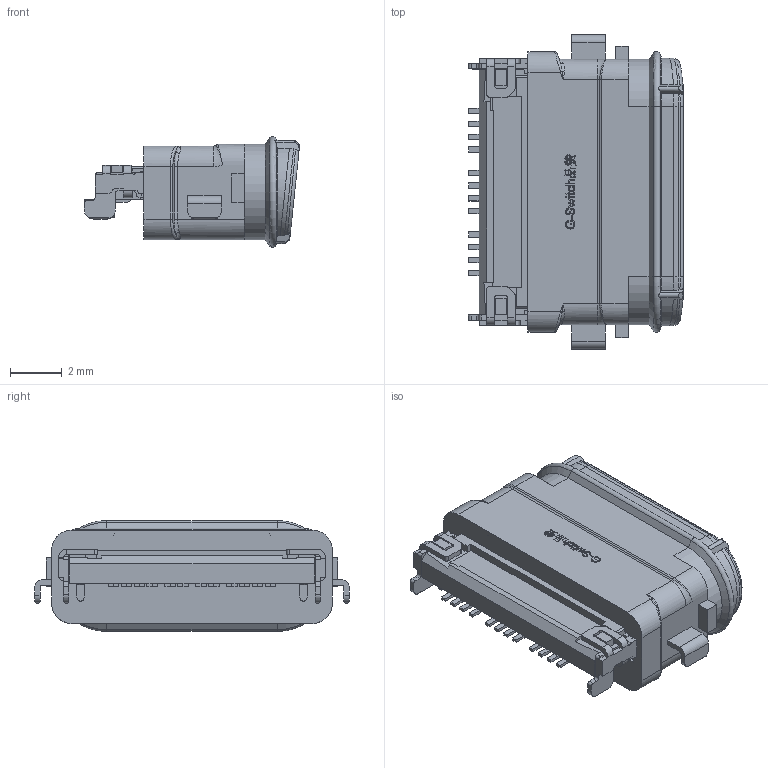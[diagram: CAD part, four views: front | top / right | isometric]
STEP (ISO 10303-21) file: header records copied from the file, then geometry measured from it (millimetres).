
FILE_DESCRIPTION (( 'STEP AP203' ), '1' );
FILE_NAME ('GT-USB-7026B.STEP', '2023-10-11T02:37:50', ( 'Microsoft' ), ( 'Microsoft' ), 'SwSTEP 2.0', 'SolidWorks 2023', '' );
FILE_SCHEMA (( 'CONFIG_CONTROL_DESIGN' ));
Products named in the file (3): 2.stp; GT-USB-7026B; 1_asm(3).stp
Assembly tree (2 placements, depth 3):
  GT-USB-7026B
    1_asm(3).stp
      2.stp
Bounding box: 8.35 x 12.2 x 4.3 mm (x, y, z)
Volume: 161.7 mm3; surface area: 740.5 mm2
Topology: 1 solids, 6 shells, 1687 faces, 4806 edges, 3115 vertices
Faces by surface type: plane 1223, cylinder 280, bspline 119, cone 38, sphere 16, torus 11
Entity records: 62758 total; most frequent: CARTESIAN_POINT 19256, ORIENTED_EDGE 9610, DIRECTION 8066, EDGE_CURVE 4805, LINE 3758, VECTOR 3758, VERTEX_POINT 3115, AXIS2_PLACEMENT_3D 2154
